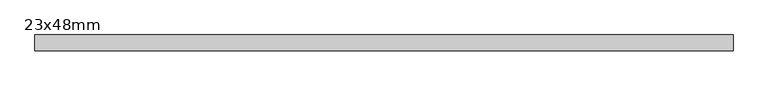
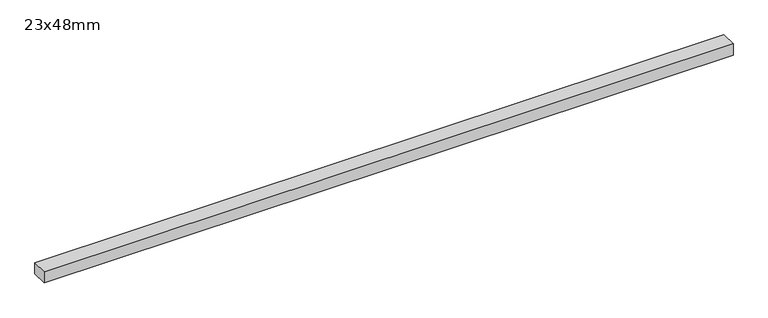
"""IFC4 building model written with IfcOpenShell, lengths in millimetres: proxy geometry, Rectangular - Horisontal - 48mm : 23x48mm."""

from ifc_helpers import new_model, si_unit, frame, origin, place, context, project, spatial, polyline, outline, extrude, source, transform, mapped, element, save


def proxy_23x48mm_c0c0c68a(model_context):
    return source(origin(), model_context, "Body", "SweptSolid", [
        extrude(outline(polyline([(-1014.0, -24.0), (-1014.0, 24.0), (1086.0, 24.0), (1086.0, -24.0), (-1014.0, -24.0)])), frame((0.0, 0.0, -0.0025175), z_axis=(0.0, 0.0, 1.0), x_axis=(1.0, 0.0, 0.0)), (0.0, 0.0, 1.0), 36.0),
    ])


if __name__ == "__main__":
    model = new_model("IFC4")
    model_context = context("Model", 3, world=origin())
    ifc_project = project(units=[si_unit("LENGTHUNIT", "METRE", prefix="MILLI")], contexts=[model_context])
    site = spatial("IfcSite", under=ifc_project)
    building = spatial("IfcBuilding", under=site)
    placement = place(None, origin())
    proxy_23x48mm_shape = proxy_23x48mm_c0c0c68a(model_context)
    element("IfcBuildingElementProxy", 1, Name="Rectangular - Horisontal - 48mm : 23x48mm", ObjectType="Rectangular - Horisontal - 48mm : 23x48mm", at=placement, inside=building, context=model_context, shape_type="MappedRepresentation", body=[
        mapped(proxy_23x48mm_shape, transform((0.0, 0.0, 0.0), x_axis=(1.0, 0.0, 0.0), y_axis=(0.0, 1.0, 0.0), z_axis=(0.0, 0.0, 1.0))),
    ])
    save(model, "model.ifc")
